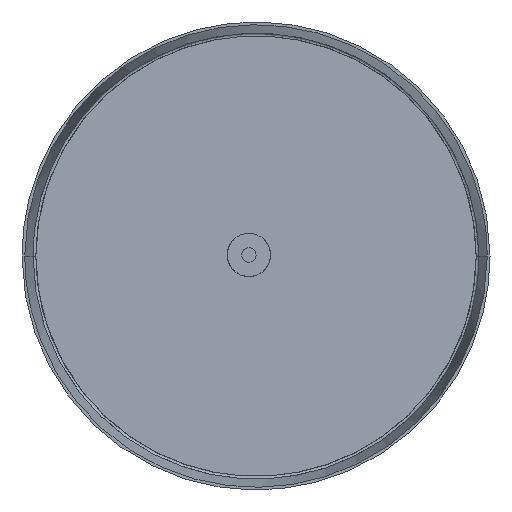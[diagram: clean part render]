
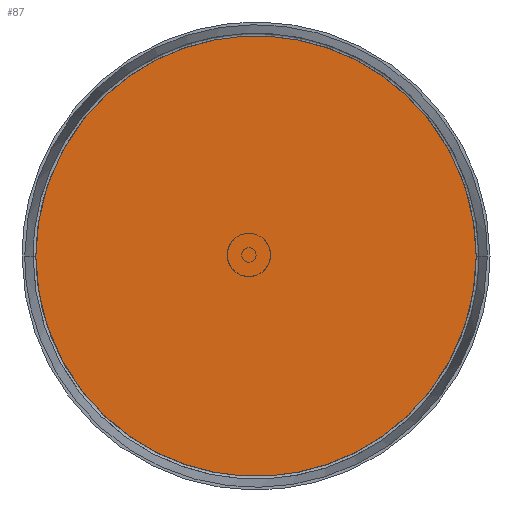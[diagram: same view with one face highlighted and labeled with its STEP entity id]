
A CAD part, top view. The second image highlights one B-rep face of the part: STEP entity #87.
In plain terms, the highlighted planar face has unit normal (0, 0, 1).
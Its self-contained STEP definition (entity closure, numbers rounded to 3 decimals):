
#29=PLANE($,#667);
#87=ADVANCED_FACE($,(#121),#29,.T.);
#121=FACE_OUTER_BOUND($,#160,.T.);
#160=EDGE_LOOP($,(#273,#274));
#273=ORIENTED_EDGE($,*,*,#380,.F.);
#274=ORIENTED_EDGE($,*,*,#383,.T.);
#380=EDGE_CURVE($,#454,#451,#561,.T.);
#383=EDGE_CURVE($,#454,#451,#564,.T.);
#451=VERTEX_POINT($,#1406);
#454=VERTEX_POINT($,#1409);
#561=(
BOUNDED_CURVE()
B_SPLINE_CURVE(2,(#1262,#1263,#1264,#1265,#1266),.UNSPECIFIED.,.F.,.F.)
B_SPLINE_CURVE_WITH_KNOTS((3,2,3),(-384.307,-192.153,0.),
.UNSPECIFIED.)
CURVE()
GEOMETRIC_REPRESENTATION_ITEM()
RATIONAL_B_SPLINE_CURVE((1.,0.707,1.,0.707,1.))
REPRESENTATION_ITEM($)
);
#564=(
BOUNDED_CURVE()
B_SPLINE_CURVE(2,(#1271,#1272,#1273,#1274,#1275),.UNSPECIFIED.,.F.,.F.)
B_SPLINE_CURVE_WITH_KNOTS((3,2,3),(384.307,576.46,768.613),
.UNSPECIFIED.)
CURVE()
GEOMETRIC_REPRESENTATION_ITEM()
RATIONAL_B_SPLINE_CURVE((1.,0.707,1.,0.707,1.))
REPRESENTATION_ITEM($)
);
#667=AXIS2_PLACEMENT_3D($,#1336,#682,$);
#682=DIRECTION($,(0.,0.,1.));
#1262=CARTESIAN_POINT($,(-118.381,-0.645,715.5));
#1263=CARTESIAN_POINT($,(-118.381,121.684,715.5));
#1264=CARTESIAN_POINT($,(3.948,121.684,715.5));
#1265=CARTESIAN_POINT($,(126.276,121.684,715.5));
#1266=CARTESIAN_POINT($,(126.276,-0.645,715.5));
#1271=CARTESIAN_POINT($,(-118.381,-0.645,715.5));
#1272=CARTESIAN_POINT($,(-118.381,-122.973,715.5));
#1273=CARTESIAN_POINT($,(3.948,-122.973,715.5));
#1274=CARTESIAN_POINT($,(126.276,-122.973,715.5));
#1275=CARTESIAN_POINT($,(126.276,-0.645,715.5));
#1336=CARTESIAN_POINT($,(-120.828,-125.42,715.5));
#1406=CARTESIAN_POINT($,(126.276,-0.645,715.5));
#1409=CARTESIAN_POINT($,(-118.381,-0.645,715.5));
